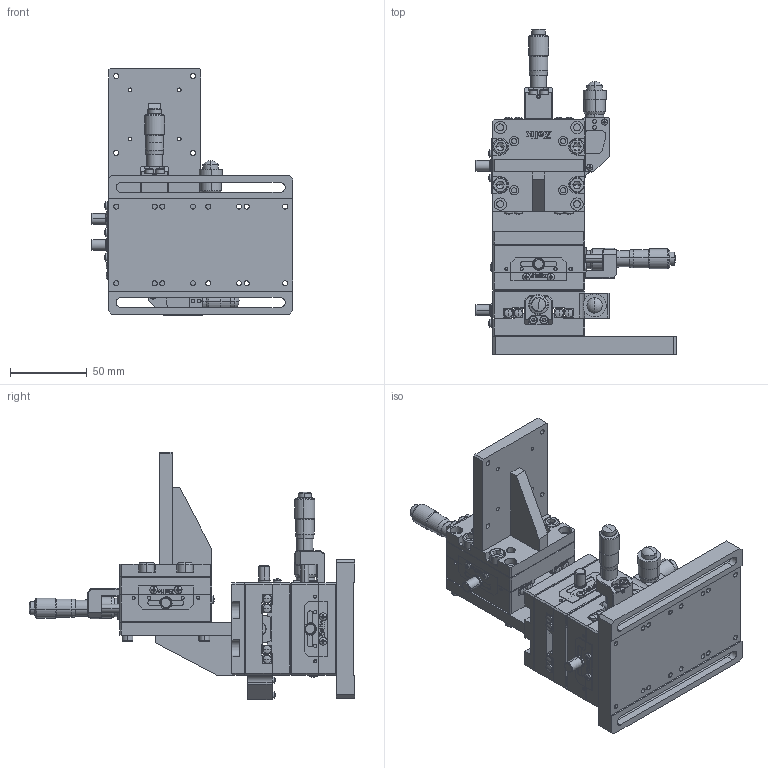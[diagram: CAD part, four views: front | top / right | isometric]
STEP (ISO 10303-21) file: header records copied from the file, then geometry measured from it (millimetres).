
FILE_DESCRIPTION (( 'STEP AP214' ), '1' );
FILE_NAME ('UFP3C-R.STEP', '2020-12-02T07:20:20', ( '' ), ( '' ), 'SwSTEP 2.0', 'SolidWorks 2017', '' );
FILE_SCHEMA (( 'AUTOMOTIVE_DESIGN' ));
Length unit declared in the file: millimetre
Products named in the file (1): UFP3C-R
Bounding box: 131.3 x 212 x 161 mm (x, y, z)
Surface area: 163301.7 mm2 (no closed solid volume)
Topology: 0 solids, 139 shells, 1346 faces, 5928 edges, 4542 vertices
Faces by surface type: plane 808, cylinder 288, cone 130, bspline 48, torus 40, sphere 32
Entity records: 76030 total; most frequent: CARTESIAN_POINT 13051, DIRECTION 10081, ORIENTED_EDGE 8524, EDGE_CURVE 5848, VERTEX_POINT 4542, VECTOR 3917, LINE 3917, AXIS2_PLACEMENT_3D 3082
